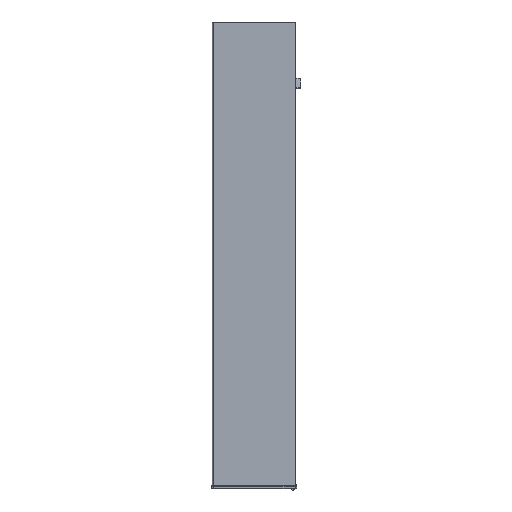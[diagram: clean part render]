
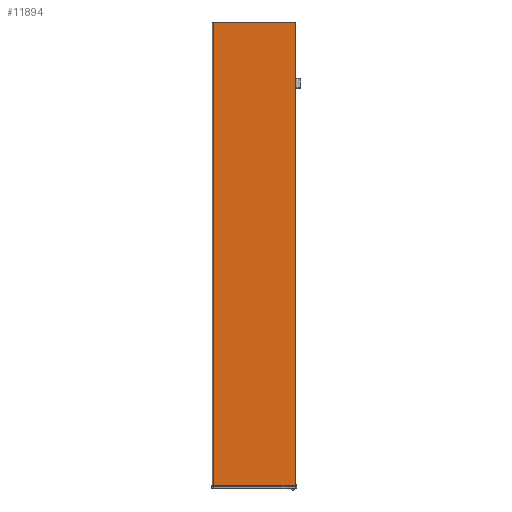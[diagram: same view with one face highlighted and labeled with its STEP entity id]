
A CAD part, left-side view. The second image highlights one B-rep face of the part: STEP entity #11894.
In plain terms, the highlighted planar face has unit normal (-1, 0, 0).
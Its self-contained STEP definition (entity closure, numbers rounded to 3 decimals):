
#13 = CARTESIAN_POINT ( 'NONE',  ( -12.5, 55.8, -462.8 ) ) ;
#180 = VERTEX_POINT ( 'NONE', #1768 ) ;
#1606 = ORIENTED_EDGE ( 'NONE', *, *, #8966, .T. ) ;
#1642 = VERTEX_POINT ( 'NONE', #7603 ) ;
#1768 = CARTESIAN_POINT ( 'NONE',  ( -12.5, -30.66, -462.8 ) ) ;
#2561 = ORIENTED_EDGE ( 'NONE', *, *, #10603, .F. ) ;
#2798 = PLANE ( 'NONE',  #9243 ) ;
#3708 = EDGE_CURVE ( 'NONE', #180, #6790, #12414, .T. ) ;
#3889 = DIRECTION ( 'NONE',  ( 0., -1., 0. ) ) ;
#4943 = LINE ( 'NONE', #5923, #7489 ) ;
#5006 = FACE_OUTER_BOUND ( 'NONE', #10089, .T. ) ;
#5770 = LINE ( 'NONE', #8410, #8654 ) ;
#5923 = CARTESIAN_POINT ( 'NONE',  ( -12.5, -30.66, -449. ) ) ;
#5930 = EDGE_CURVE ( 'NONE', #180, #1642, #4943, .T. ) ;
#5987 = CARTESIAN_POINT ( 'NONE',  ( -12.5, 56.8, -449. ) ) ;
#6448 = DIRECTION ( 'NONE',  ( 0., 1., 0. ) ) ;
#6454 = CARTESIAN_POINT ( 'NONE',  ( -12.5, 56.8, 25. ) ) ;
#6790 = VERTEX_POINT ( 'NONE', #11391 ) ;
#7489 = VECTOR ( 'NONE', #12382, 1000. ) ;
#7603 = CARTESIAN_POINT ( 'NONE',  ( -12.5, -30.66, 25. ) ) ;
#8028 = ORIENTED_EDGE ( 'NONE', *, *, #3708, .F. ) ;
#8372 = VERTEX_POINT ( 'NONE', #12841 ) ;
#8410 = CARTESIAN_POINT ( 'NONE',  ( -12.5, 55.8, -449. ) ) ;
#8654 = VECTOR ( 'NONE', #13703, 1000. ) ;
#8966 = EDGE_CURVE ( 'NONE', #8372, #6790, #5770, .T. ) ;
#9243 = AXIS2_PLACEMENT_3D ( 'NONE', #5987, #10352, #3889 ) ;
#9438 = VECTOR ( 'NONE', #10799, 1000. ) ;
#9580 = VECTOR ( 'NONE', #6448, 1000. ) ;
#9969 = ORIENTED_EDGE ( 'NONE', *, *, #5930, .T. ) ;
#10089 = EDGE_LOOP ( 'NONE', ( #9969, #2561, #1606, #8028 ) ) ;
#10352 = DIRECTION ( 'NONE',  ( -1., 0., 0. ) ) ;
#10603 = EDGE_CURVE ( 'NONE', #8372, #1642, #12280, .T. ) ;
#10799 = DIRECTION ( 'NONE',  ( 0., -1., 0. ) ) ;
#11391 = CARTESIAN_POINT ( 'NONE',  ( -12.5, 55.8, -462.8 ) ) ;
#11894 = ADVANCED_FACE ( 'NONE', ( #5006 ), #2798, .T. ) ;
#12280 = LINE ( 'NONE', #6454, #9438 ) ;
#12382 = DIRECTION ( 'NONE',  ( 0., 0., 1. ) ) ;
#12414 = LINE ( 'NONE', #13, #9580 ) ;
#12841 = CARTESIAN_POINT ( 'NONE',  ( -12.5, 55.8, 25. ) ) ;
#13703 = DIRECTION ( 'NONE',  ( 0., 0., -1. ) ) ;
